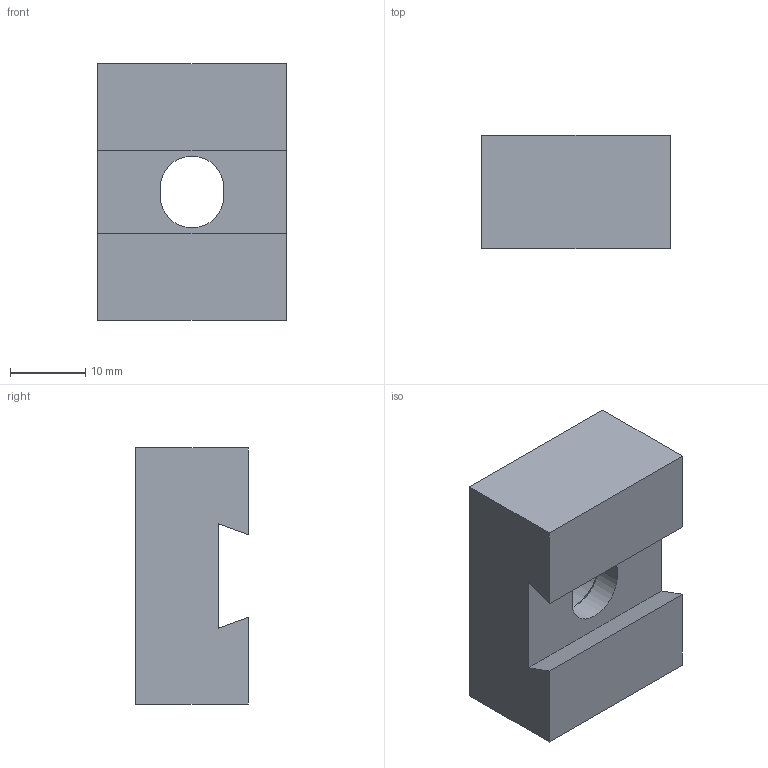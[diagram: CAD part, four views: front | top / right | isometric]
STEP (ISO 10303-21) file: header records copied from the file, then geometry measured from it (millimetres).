
FILE_DESCRIPTION((''),'2;1');
FILE_NAME('FG_WH_WEDCL_00DC1NP001','2026-06-05T10:42:46',('Admin'),(''),'CREO PARAMETRIC BY PTC INC, 2025010','CREO PARAMETRIC BY PTC INC, 2025010','');
FILE_SCHEMA(('CONFIG_CONTROL_DESIGN'));
Length unit declared in the file: metre
Products named in the file (1): FG_WH_WEDCL_00DC1NP001
Bounding box: 25 x 15 x 34 mm (x, y, z)
Volume: 10125.1 mm3; surface area: 3918.9 mm2
Topology: 1 solids, 1 shells, 27 faces, 64 edges, 40 vertices
Faces by surface type: plane 19, cylinder 4, cone 4
Entity records: 820 total; most frequent: CARTESIAN_POINT 151, ORIENTED_EDGE 128, DIRECTION 126, EDGE_CURVE 64, VECTOR 48, LINE 48, VERTEX_POINT 40, AXIS2_PLACEMENT_3D 39
